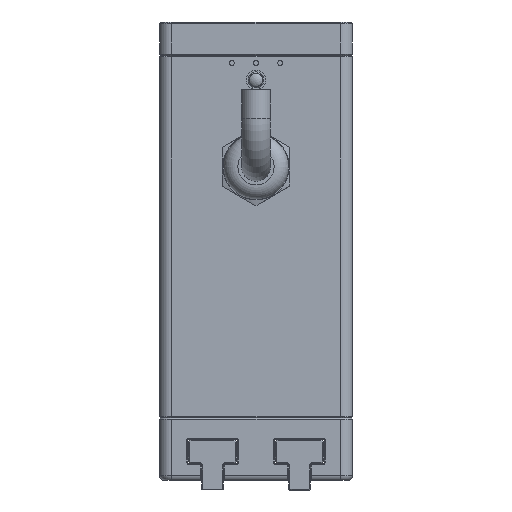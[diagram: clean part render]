
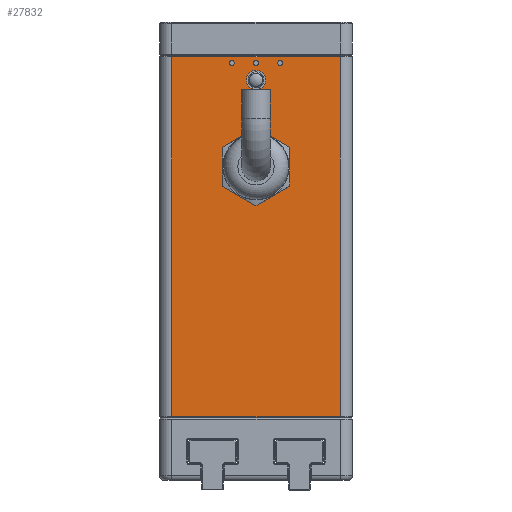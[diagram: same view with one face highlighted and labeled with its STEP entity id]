
A CAD part, left-side view. The second image highlights one B-rep face of the part: STEP entity #27832.
In plain terms, the highlighted planar face has unit normal (-1, 0, 0).
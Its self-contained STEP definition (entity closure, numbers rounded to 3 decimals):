
#536 = DIRECTION ( 'NONE',  ( 1., 0., 0. ) ) ;
#619 = CARTESIAN_POINT ( 'NONE',  ( -35., 5., 74. ) ) ;
#1144 = LINE ( 'NONE', #3168, #13439 ) ;
#1230 = FACE_BOUND ( 'NONE', #24888, .T. ) ;
#2051 = DIRECTION ( 'NONE',  ( -1., 0., 0. ) ) ;
#2238 = ORIENTED_EDGE ( 'NONE', *, *, #14856, .T. ) ;
#2779 = FACE_BOUND ( 'NONE', #14858, .T. ) ;
#2858 = ORIENTED_EDGE ( 'NONE', *, *, #25222, .T. ) ;
#3015 = CARTESIAN_POINT ( 'NONE',  ( -35., 0., 72. ) ) ;
#3146 = VECTOR ( 'NONE', #17020, 1000. ) ;
#3168 = CARTESIAN_POINT ( 'NONE',  ( -35., 17.5, 77. ) ) ;
#4081 = DIRECTION ( 'NONE',  ( -1., 0., 0. ) ) ;
#5125 = EDGE_CURVE ( 'NONE', #13695, #13695, #14596, .T. ) ;
#5610 = VERTEX_POINT ( 'NONE', #619 ) ;
#5826 = CARTESIAN_POINT ( 'NONE',  ( -35., 17.5, 74.8 ) ) ;
#6181 = ORIENTED_EDGE ( 'NONE', *, *, #8157, .T. ) ;
#6274 = ORIENTED_EDGE ( 'NONE', *, *, #11855, .F. ) ;
#6349 = CARTESIAN_POINT ( 'NONE',  ( -35., 0., 45.5 ) ) ;
#6792 = EDGE_CURVE ( 'NONE', #5610, #5610, #8386, .T. ) ;
#6865 = CIRCLE ( 'NONE', #11097, 0.5 ) ;
#7816 = FACE_BOUND ( 'NONE', #29337, .T. ) ;
#8157 = EDGE_CURVE ( 'NONE', #20605, #11224, #24389, .T. ) ;
#8267 = CARTESIAN_POINT ( 'NONE',  ( -35., 0., 52. ) ) ;
#8386 = CIRCLE ( 'NONE', #19966, 0.5 ) ;
#9525 = CIRCLE ( 'NONE', #19584, 0.5 ) ;
#10454 = DIRECTION ( 'NONE',  ( 0., 0., -1. ) ) ;
#10719 = DIRECTION ( 'NONE',  ( 0., 0., -1. ) ) ;
#10830 = VERTEX_POINT ( 'NONE', #30341 ) ;
#11023 = CIRCLE ( 'NONE', #25216, 6.5 ) ;
#11097 = AXIS2_PLACEMENT_3D ( 'NONE', #14469, #31699, #16941 ) ;
#11224 = VERTEX_POINT ( 'NONE', #22242 ) ;
#11701 = VECTOR ( 'NONE', #20990, 1000. ) ;
#11855 = EDGE_CURVE ( 'NONE', #20623, #20623, #6865, .T. ) ;
#11867 = DIRECTION ( 'NONE',  ( -1., 0., 0. ) ) ;
#12498 = VERTEX_POINT ( 'NONE', #15681 ) ;
#12515 = ORIENTED_EDGE ( 'NONE', *, *, #18355, .T. ) ;
#12902 = AXIS2_PLACEMENT_3D ( 'NONE', #22715, #536, #10454 ) ;
#13294 = EDGE_CURVE ( 'NONE', #12498, #12498, #9525, .T. ) ;
#13439 = VECTOR ( 'NONE', #22854, 1000. ) ;
#13695 = VERTEX_POINT ( 'NONE', #3015 ) ;
#14319 = CARTESIAN_POINT ( 'NONE',  ( -35., 0., 70. ) ) ;
#14469 = CARTESIAN_POINT ( 'NONE',  ( -35., 0., 73.5 ) ) ;
#14596 = CIRCLE ( 'NONE', #18691, 2. ) ;
#14856 = EDGE_CURVE ( 'NONE', #11224, #10830, #1144, .T. ) ;
#14858 = EDGE_LOOP ( 'NONE', ( #22967 ) ) ;
#15428 = EDGE_LOOP ( 'NONE', ( #2858 ) ) ;
#15681 = CARTESIAN_POINT ( 'NONE',  ( -35., -5., 74. ) ) ;
#16509 = VERTEX_POINT ( 'NONE', #30258 ) ;
#16781 = CARTESIAN_POINT ( 'NONE',  ( -35., 5., 73.5 ) ) ;
#16941 = DIRECTION ( 'NONE',  ( 0., 0., 1. ) ) ;
#17020 = DIRECTION ( 'NONE',  ( 0., -1., 0. ) ) ;
#17524 = DIRECTION ( 'NONE',  ( 0., 0., 1. ) ) ;
#17803 = VECTOR ( 'NONE', #20568, 1000. ) ;
#18038 = CARTESIAN_POINT ( 'NONE',  ( -35., 0., 74. ) ) ;
#18227 = LINE ( 'NONE', #23370, #11701 ) ;
#18355 = EDGE_CURVE ( 'NONE', #16509, #20605, #18227, .T. ) ;
#18442 = EDGE_LOOP ( 'NONE', ( #12515, #6181, #2238, #30052 ) ) ;
#18691 = AXIS2_PLACEMENT_3D ( 'NONE', #14319, #11867, #17524 ) ;
#18805 = CARTESIAN_POINT ( 'NONE',  ( -35., -5., 73.5 ) ) ;
#19257 = DIRECTION ( 'NONE',  ( 0., 0., 1. ) ) ;
#19584 = AXIS2_PLACEMENT_3D ( 'NONE', #18805, #4081, #21290 ) ;
#19966 = AXIS2_PLACEMENT_3D ( 'NONE', #16781, #2051, #19257 ) ;
#20224 = EDGE_LOOP ( 'NONE', ( #24183 ) ) ;
#20568 = DIRECTION ( 'NONE',  ( 0., 1., 0. ) ) ;
#20605 = VERTEX_POINT ( 'NONE', #27439 ) ;
#20623 = VERTEX_POINT ( 'NONE', #18038 ) ;
#20869 = FACE_BOUND ( 'NONE', #15428, .T. ) ;
#20990 = DIRECTION ( 'NONE',  ( 0., 0., 1. ) ) ;
#21290 = DIRECTION ( 'NONE',  ( 0., 0., 1. ) ) ;
#22078 = CARTESIAN_POINT ( 'NONE',  ( -35., -20., 0.2 ) ) ;
#22242 = CARTESIAN_POINT ( 'NONE',  ( -35., 17.5, 74.8 ) ) ;
#22715 = CARTESIAN_POINT ( 'NONE',  ( -35., -20., 77. ) ) ;
#22854 = DIRECTION ( 'NONE',  ( 0., 0., -1. ) ) ;
#22891 = VERTEX_POINT ( 'NONE', #6349 ) ;
#22967 = ORIENTED_EDGE ( 'NONE', *, *, #13294, .F. ) ;
#23370 = CARTESIAN_POINT ( 'NONE',  ( -35., -17.5, 77. ) ) ;
#24183 = ORIENTED_EDGE ( 'NONE', *, *, #6792, .F. ) ;
#24389 = LINE ( 'NONE', #5826, #17803 ) ;
#24888 = EDGE_LOOP ( 'NONE', ( #26901 ) ) ;
#25192 = PLANE ( 'NONE',  #12902 ) ;
#25216 = AXIS2_PLACEMENT_3D ( 'NONE', #8267, #25449, #10719 ) ;
#25222 = EDGE_CURVE ( 'NONE', #22891, #22891, #11023, .T. ) ;
#25449 = DIRECTION ( 'NONE',  ( 1., 0., 0. ) ) ;
#26651 = FACE_OUTER_BOUND ( 'NONE', #18442, .T. ) ;
#26901 = ORIENTED_EDGE ( 'NONE', *, *, #5125, .F. ) ;
#27415 = FACE_BOUND ( 'NONE', #20224, .T. ) ;
#27439 = CARTESIAN_POINT ( 'NONE',  ( -35., -17.5, 74.8 ) ) ;
#27832 = ADVANCED_FACE ( 'NONE', ( #7816, #2779, #27415, #20869, #1230, #26651 ), #25192, .F. ) ;
#28587 = LINE ( 'NONE', #22078, #3146 ) ;
#29337 = EDGE_LOOP ( 'NONE', ( #6274 ) ) ;
#30052 = ORIENTED_EDGE ( 'NONE', *, *, #31308, .T. ) ;
#30258 = CARTESIAN_POINT ( 'NONE',  ( -35., -17.5, 0.2 ) ) ;
#30341 = CARTESIAN_POINT ( 'NONE',  ( -35., 17.5, 0.2 ) ) ;
#31308 = EDGE_CURVE ( 'NONE', #10830, #16509, #28587, .T. ) ;
#31699 = DIRECTION ( 'NONE',  ( -1., 0., 0. ) ) ;
